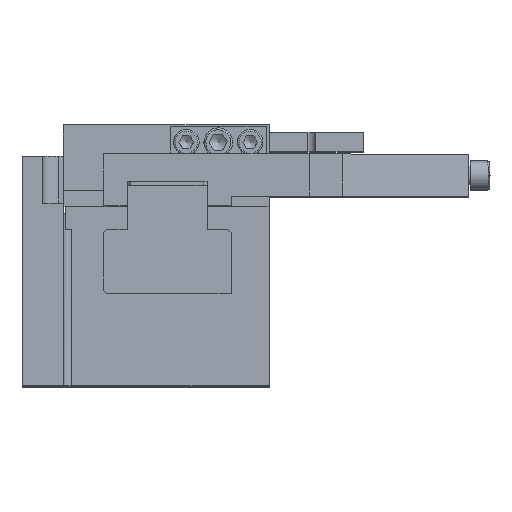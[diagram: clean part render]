
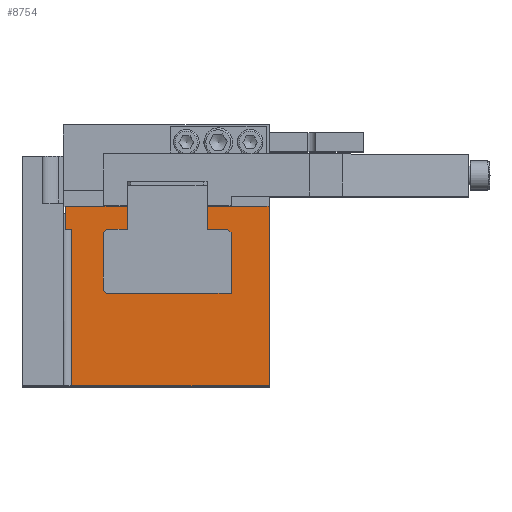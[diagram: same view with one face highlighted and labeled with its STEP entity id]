
A CAD part, top view. The second image highlights one B-rep face of the part: STEP entity #8754.
In plain terms, the highlighted planar face has unit normal (0, 0, 1).
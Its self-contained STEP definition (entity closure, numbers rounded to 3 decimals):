
#3251=CARTESIAN_POINT('',(76.538,382.882,1027.072));
#3252=VERTEX_POINT('',#3251);
#3259=CARTESIAN_POINT('',(76.538,397.382,1027.072));
#3260=VERTEX_POINT('',#3259);
#3261=CARTESIAN_POINT('',(76.538,397.382,1027.072));
#3262=DIRECTION('',(0.0,-1.0,0.0));
#3263=VECTOR('',#3262,14.5);
#3264=LINE('',#3261,#3263);
#3265=EDGE_CURVE('',#3260,#3252,#3264,.T.);
#4906=CARTESIAN_POINT('',(13.538,382.882,1027.072));
#4907=VERTEX_POINT('',#4906);
#4908=CARTESIAN_POINT('',(26.538,382.882,1027.072));
#4909=VERTEX_POINT('',#4908);
#4910=CARTESIAN_POINT('',(13.538,382.882,1027.072));
#4911=DIRECTION('',(1.0,0.0,0.0));
#4912=VECTOR('',#4911,13.0);
#4913=LINE('',#4910,#4912);
#4914=EDGE_CURVE('',#4907,#4909,#4913,.T.);
#4946=CARTESIAN_POINT('',(11.538,380.882,1027.072));
#4947=VERTEX_POINT('',#4946);
#4948=CARTESIAN_POINT('',(11.538,380.882,1027.072));
#4949=DIRECTION('',(0.707,0.707,0.0));
#4950=VECTOR('',#4949,2.828);
#4951=LINE('',#4948,#4950);
#4952=EDGE_CURVE('',#4947,#4907,#4951,.T.);
#4977=CARTESIAN_POINT('',(11.538,344.882,1027.072));
#4978=VERTEX_POINT('',#4977);
#4979=CARTESIAN_POINT('',(11.538,344.882,1027.072));
#4980=DIRECTION('',(0.0,1.0,0.0));
#4981=VECTOR('',#4980,36.0);
#4982=LINE('',#4979,#4981);
#4983=EDGE_CURVE('',#4978,#4947,#4982,.T.);
#5008=CARTESIAN_POINT('',(13.538,342.882,1027.072));
#5009=VERTEX_POINT('',#5008);
#5010=CARTESIAN_POINT('',(13.538,342.882,1027.072));
#5011=DIRECTION('',(-0.707,0.707,0.0));
#5012=VECTOR('',#5011,2.828);
#5013=LINE('',#5010,#5012);
#5014=EDGE_CURVE('',#5009,#4978,#5013,.T.);
#5039=CARTESIAN_POINT('',(91.538,342.882,1027.072));
#5040=VERTEX_POINT('',#5039);
#5041=CARTESIAN_POINT('',(91.538,342.882,1027.072));
#5042=DIRECTION('',(-1.0,0.0,0.0));
#5043=VECTOR('',#5042,78.0);
#5044=LINE('',#5041,#5043);
#5045=EDGE_CURVE('',#5040,#5009,#5044,.T.);
#5070=CARTESIAN_POINT('',(91.538,380.882,1027.072));
#5071=VERTEX_POINT('',#5070);
#5072=CARTESIAN_POINT('',(91.538,380.882,1027.072));
#5073=DIRECTION('',(0.0,-1.0,0.0));
#5074=VECTOR('',#5073,38.);
#5075=LINE('',#5072,#5074);
#5076=EDGE_CURVE('',#5071,#5040,#5075,.T.);
#5101=CARTESIAN_POINT('',(89.538,382.882,1027.072));
#5102=VERTEX_POINT('',#5101);
#5103=CARTESIAN_POINT('',(89.538,382.882,1027.072));
#5104=DIRECTION('',(0.707,-0.707,0.0));
#5105=VECTOR('',#5104,2.828);
#5106=LINE('',#5103,#5105);
#5107=EDGE_CURVE('',#5102,#5071,#5106,.T.);
#5239=CARTESIAN_POINT('',(76.538,382.882,1027.072));
#5240=DIRECTION('',(1.0,0.0,0.0));
#5241=VECTOR('',#5240,13.0);
#5242=LINE('',#5239,#5241);
#5243=EDGE_CURVE('',#3252,#5102,#5242,.T.);
#5295=CARTESIAN_POINT('',(26.538,397.382,1027.072));
#5296=VERTEX_POINT('',#5295);
#5303=CARTESIAN_POINT('',(26.538,382.882,1027.072));
#5304=DIRECTION('',(0.0,1.0,0.0));
#5305=VECTOR('',#5304,14.5);
#5306=LINE('',#5303,#5305);
#5307=EDGE_CURVE('',#4909,#5296,#5306,.T.);
#7501=CARTESIAN_POINT('',(115.338,397.382,1027.072));
#7502=VERTEX_POINT('',#7501);
#7503=CARTESIAN_POINT('',(76.538,397.382,1027.072));
#7504=DIRECTION('',(1.0,0.0,0.0));
#7505=VECTOR('',#7504,38.8);
#7506=LINE('',#7503,#7505);
#7507=EDGE_CURVE('',#3260,#7502,#7506,.T.);
#8068=CARTESIAN_POINT('',(-12.262,382.882,1027.072));
#8069=VERTEX_POINT('',#8068);
#8070=CARTESIAN_POINT('',(-12.262,397.382,1027.072));
#8071=VERTEX_POINT('',#8070);
#8072=CARTESIAN_POINT('',(-12.262,382.882,1027.072));
#8073=DIRECTION('',(0.0,1.0,0.0));
#8074=VECTOR('',#8073,14.5);
#8075=LINE('',#8072,#8074);
#8076=EDGE_CURVE('',#8069,#8071,#8075,.T.);
#8104=CARTESIAN_POINT('',(-12.262,397.382,1027.072));
#8105=DIRECTION('',(1.0,0.0,0.0));
#8106=VECTOR('',#8105,38.8);
#8107=LINE('',#8104,#8106);
#8108=EDGE_CURVE('',#8071,#5296,#8107,.T.);
#8119=CARTESIAN_POINT('',(115.338,382.882,1027.072));
#8120=VERTEX_POINT('',#8119);
#8121=CARTESIAN_POINT('',(115.338,397.382,1027.072));
#8122=DIRECTION('',(0.0,-1.0,0.0));
#8123=VECTOR('',#8122,14.5);
#8124=LINE('',#8121,#8123);
#8125=EDGE_CURVE('',#7502,#8120,#8124,.T.);
#8146=CARTESIAN_POINT('',(115.538,382.882,1027.072));
#8147=VERTEX_POINT('',#8146);
#8148=CARTESIAN_POINT('',(115.338,382.882,1027.072));
#8149=DIRECTION('',(1.0,0.0,0.0));
#8150=VECTOR('',#8149,0.2);
#8151=LINE('',#8148,#8150);
#8152=EDGE_CURVE('',#8120,#8147,#8151,.T.);
#8178=CARTESIAN_POINT('',(-8.462,382.882,1027.072));
#8179=VERTEX_POINT('',#8178);
#8187=CARTESIAN_POINT('',(-8.462,382.882,1027.072));
#8188=DIRECTION('',(-1.0,0.0,0.0));
#8189=VECTOR('',#8188,3.8);
#8190=LINE('',#8187,#8189);
#8191=EDGE_CURVE('',#8179,#8069,#8190,.T.);
#8709=CARTESIAN_POINT('',(129.266,428.882,1027.072));
#8710=DIRECTION('',(0.0,0.0,-1.0));
#8711=DIRECTION('',(-1.0,0.0,0.0));
#8712=AXIS2_PLACEMENT_3D('',#8709,#8710,#8711);
#8713=PLANE('',#8712);
#8714=ORIENTED_EDGE('',*,*,#5307,.T.);
#8715=ORIENTED_EDGE('',*,*,#8108,.F.);
#8716=ORIENTED_EDGE('',*,*,#8076,.F.);
#8717=ORIENTED_EDGE('',*,*,#8191,.F.);
#8718=CARTESIAN_POINT('',(-8.462,284.882,1027.072));
#8719=VERTEX_POINT('',#8718);
#8720=CARTESIAN_POINT('',(-8.462,382.882,1027.072));
#8721=DIRECTION('',(0.0,-1.0,0.0));
#8722=VECTOR('',#8721,98.);
#8723=LINE('',#8720,#8722);
#8724=EDGE_CURVE('',#8179,#8719,#8723,.T.);
#8725=ORIENTED_EDGE('',*,*,#8724,.T.);
#8726=CARTESIAN_POINT('',(115.538,284.882,1027.072));
#8727=VERTEX_POINT('',#8726);
#8728=CARTESIAN_POINT('',(115.538,284.882,1027.072));
#8729=DIRECTION('',(-1.0,0.0,0.0));
#8730=VECTOR('',#8729,124.);
#8731=LINE('',#8728,#8730);
#8732=EDGE_CURVE('',#8727,#8719,#8731,.T.);
#8733=ORIENTED_EDGE('',*,*,#8732,.F.);
#8734=CARTESIAN_POINT('',(115.538,382.882,1027.072));
#8735=DIRECTION('',(0.0,-1.0,0.0));
#8736=VECTOR('',#8735,98.);
#8737=LINE('',#8734,#8736);
#8738=EDGE_CURVE('',#8147,#8727,#8737,.T.);
#8739=ORIENTED_EDGE('',*,*,#8738,.F.);
#8740=ORIENTED_EDGE('',*,*,#8152,.F.);
#8741=ORIENTED_EDGE('',*,*,#8125,.F.);
#8742=ORIENTED_EDGE('',*,*,#7507,.F.);
#8743=ORIENTED_EDGE('',*,*,#3265,.T.);
#8744=ORIENTED_EDGE('',*,*,#5243,.T.);
#8745=ORIENTED_EDGE('',*,*,#5107,.T.);
#8746=ORIENTED_EDGE('',*,*,#5076,.T.);
#8747=ORIENTED_EDGE('',*,*,#5045,.T.);
#8748=ORIENTED_EDGE('',*,*,#5014,.T.);
#8749=ORIENTED_EDGE('',*,*,#4983,.T.);
#8750=ORIENTED_EDGE('',*,*,#4952,.T.);
#8751=ORIENTED_EDGE('',*,*,#4914,.T.);
#8752=EDGE_LOOP('',(#8714,#8715,#8716,#8717,#8725,#8733,#8739,#8740,#8741,#8742,#8743,#8744,#8745,#8746,#8747,#8748,#8749,#8750,#8751));
#8753=FACE_OUTER_BOUND('',#8752,.T.);
#8754=ADVANCED_FACE('',(#8753),#8713,.F.);
